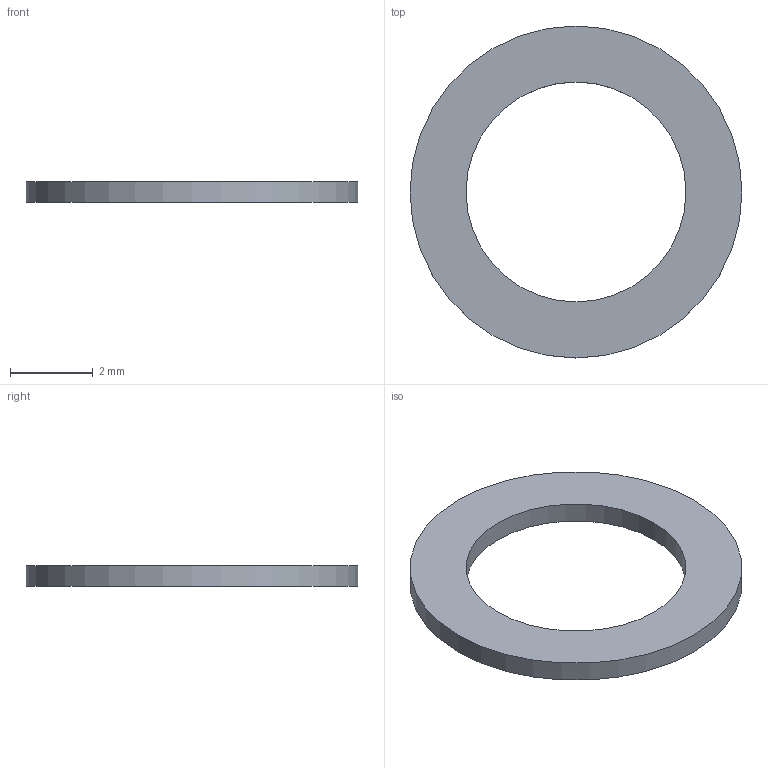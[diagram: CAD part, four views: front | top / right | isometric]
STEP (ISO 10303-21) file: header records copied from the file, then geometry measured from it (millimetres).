
FILE_DESCRIPTION(('Open CASCADE Model'),'2;1');
FILE_NAME('Open CASCADE Shape Model','2026-11-14T12:29:47',('Author'),( 'Open CASCADE'),'Open CASCADE STEP processor 8.0','Open CASCADE 8.0' ,'Unknown');
FILE_SCHEMA(('AUTOMOTIVE_DESIGN { 1 0 10303 214 1 1 1 1 }'));
Length unit declared in the file: millimetre
Products named in the file (1): Open CASCADE STEP translator 8.0 1
Bounding box: 8 x 8 x 0.5 mm (x, y, z)
Volume: 14.1 mm3; surface area: 77.3 mm2
Topology: 1 solids, 1 shells, 4 faces, 6 edges, 4 vertices
Faces by surface type: cylinder 2, plane 2
Full cylindrical faces by diameter (mm): 5.3 x1, 8 x1
Entity records: 186 total; most frequent: DIRECTION 32, CARTESIAN_POINT 27, ORIENTED_EDGE 12, PCURVE 12, DEFINITIONAL_REPRESENTATION 12, LINE 10, VECTOR 10, AXIS2_PLACEMENT_3D 9
